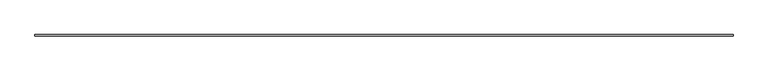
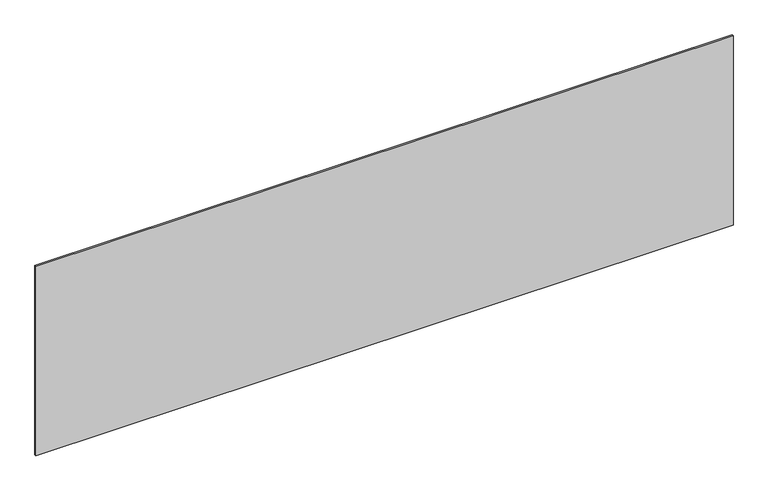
"""IFC4 building model written with IfcOpenShell, lengths in millimetres: plate geometry, システム パネル : 標準."""

from ifc_helpers import new_model, si_unit, origin, origin_with_axes, place, context, project, spatial, polyline, outline, extrude, source, transform, mapped, element, save


def plate_371e701f(model_context):
    return source(origin(), model_context, "Body", "SweptSolid", [
        extrude(outline(polyline([(2281.6666667, -5.0), (-2281.6666667, -5.0), (-2281.6666667, 5.0), (2281.6666667, 5.0), (2281.6666667, -5.0)])), origin_with_axes(), (0.0, 0.0, 1.0), 1312.0052046),
    ])


if __name__ == "__main__":
    model = new_model("IFC4")
    model_context = context("Model", 3, world=origin())
    ifc_project = project(units=[si_unit("LENGTHUNIT", "METRE", prefix="MILLI")], contexts=[model_context])
    site = spatial("IfcSite", under=ifc_project)
    building = spatial("IfcBuilding", under=site)
    placement = place(None, origin())
    plate_shape = plate_371e701f(model_context)
    element("IfcPlate", 1, ObjectType="システム パネル : 標準", at=placement, inside=building, context=model_context, shape_type="MappedRepresentation", body=[
        mapped(plate_shape, transform((0.0, 0.0, 0.0), x_axis=(1.0, 0.0, 0.0), y_axis=(0.0, 1.0, 0.0), z_axis=(0.0, 0.0, 1.0))),
    ])
    save(model, "model.ifc")
